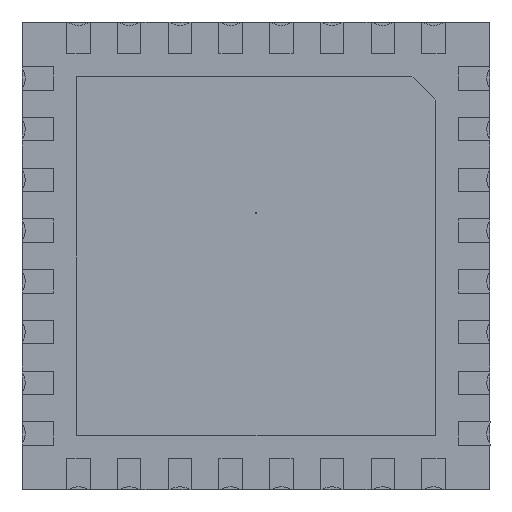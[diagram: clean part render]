
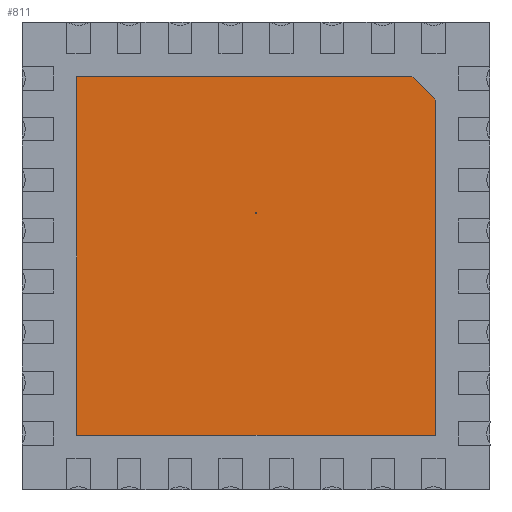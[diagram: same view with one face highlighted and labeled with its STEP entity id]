
A CAD part, front view. The second image highlights one B-rep face of the part: STEP entity #811.
In plain terms, the highlighted planar face has unit normal (0, -1, 0).
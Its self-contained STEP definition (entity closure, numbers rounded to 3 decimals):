
#347 = CARTESIAN_POINT ( 'NONE',  ( 0.7, -0.03, -5.3 ) ) ;
#523 = ORIENTED_EDGE ( 'NONE', *, *, #4440, .T. ) ;
#566 = AXIS2_PLACEMENT_3D ( 'NONE', #5805, #1808, #2377 ) ;
#769 = VECTOR ( 'NONE', #4465, 1000. ) ;
#770 = VERTEX_POINT ( 'NONE', #2802 ) ;
#799 = DIRECTION ( 'NONE',  ( 0., 0., -1. ) ) ;
#811 = ADVANCED_FACE ( 'NONE', ( #3051, #4996 ), #2145, .F. ) ;
#967 = CARTESIAN_POINT ( 'NONE',  ( 3., -0.03, -2.445 ) ) ;
#983 = EDGE_CURVE ( 'NONE', #770, #3218, #6492, .T. ) ;
#1435 = CARTESIAN_POINT ( 'NONE',  ( 0.7, -0.03, -5.3 ) ) ;
#1473 = DIRECTION ( 'NONE',  ( 0., 0., -1. ) ) ;
#1524 = ORIENTED_EDGE ( 'NONE', *, *, #2576, .T. ) ;
#1555 = ORIENTED_EDGE ( 'NONE', *, *, #5432, .T. ) ;
#1626 = VECTOR ( 'NONE', #3228, 1000. ) ;
#1781 = DIRECTION ( 'NONE',  ( 0., 0., 1. ) ) ;
#1808 = DIRECTION ( 'NONE',  ( 0., -1., 0. ) ) ;
#1884 = LINE ( 'NONE', #4970, #1626 ) ;
#1989 = VERTEX_POINT ( 'NONE', #7252 ) ;
#2145 = PLANE ( 'NONE',  #5562 ) ;
#2153 = LINE ( 'NONE', #6157, #6634 ) ;
#2183 = VERTEX_POINT ( 'NONE', #4605 ) ;
#2346 = CARTESIAN_POINT ( 'NONE',  ( 0.7, -0.03, -0.7 ) ) ;
#2373 = LINE ( 'NONE', #347, #2890 ) ;
#2377 = DIRECTION ( 'NONE',  ( 0., 0., -1. ) ) ;
#2463 = DIRECTION ( 'NONE',  ( 0., -1., 0. ) ) ;
#2543 = CARTESIAN_POINT ( 'NONE',  ( 3., -0.03, -2.45 ) ) ;
#2576 = EDGE_CURVE ( 'NONE', #6987, #2978, #2153, .T. ) ;
#2656 = EDGE_LOOP ( 'NONE', ( #523, #4554, #3985, #1524, #1555 ) ) ;
#2688 = EDGE_CURVE ( 'NONE', #6142, #6987, #3015, .T. ) ;
#2694 = DIRECTION ( 'NONE',  ( -1., 0., 0. ) ) ;
#2698 = CARTESIAN_POINT ( 'NONE',  ( 5.3, -0.03, -1. ) ) ;
#2802 = CARTESIAN_POINT ( 'NONE',  ( 3., -0.03, -2.455 ) ) ;
#2890 = VECTOR ( 'NONE', #1473, 1000. ) ;
#2978 = VERTEX_POINT ( 'NONE', #2346 ) ;
#2991 = CARTESIAN_POINT ( 'NONE',  ( 5.3, -0.03, -5.3 ) ) ;
#3015 = LINE ( 'NONE', #4415, #769 ) ;
#3051 = FACE_OUTER_BOUND ( 'NONE', #2656, .T. ) ;
#3213 = EDGE_CURVE ( 'NONE', #1989, #6142, #1884, .T. ) ;
#3218 = VERTEX_POINT ( 'NONE', #967 ) ;
#3228 = DIRECTION ( 'NONE',  ( 0., 0., 1. ) ) ;
#3430 = AXIS2_PLACEMENT_3D ( 'NONE', #2543, #2463, #799 ) ;
#3563 = DIRECTION ( 'NONE',  ( 1., 0., 0. ) ) ;
#3867 = EDGE_CURVE ( 'NONE', #3218, #770, #4054, .T. ) ;
#3985 = ORIENTED_EDGE ( 'NONE', *, *, #2688, .T. ) ;
#4044 = VECTOR ( 'NONE', #3563, 1000. ) ;
#4054 = CIRCLE ( 'NONE', #3430, 0.005 ) ;
#4415 = CARTESIAN_POINT ( 'NONE',  ( 5., -0.03, -0.7 ) ) ;
#4440 = EDGE_CURVE ( 'NONE', #2183, #1989, #4671, .T. ) ;
#4465 = DIRECTION ( 'NONE',  ( -0.707, 0., 0.707 ) ) ;
#4554 = ORIENTED_EDGE ( 'NONE', *, *, #3213, .T. ) ;
#4605 = CARTESIAN_POINT ( 'NONE',  ( 0.7, -0.03, -5.3 ) ) ;
#4671 = LINE ( 'NONE', #2991, #4044 ) ;
#4952 = ORIENTED_EDGE ( 'NONE', *, *, #3867, .F. ) ;
#4970 = CARTESIAN_POINT ( 'NONE',  ( 5.3, -0.03, -1. ) ) ;
#4996 = FACE_BOUND ( 'NONE', #6758, .T. ) ;
#5432 = EDGE_CURVE ( 'NONE', #2978, #2183, #2373, .T. ) ;
#5562 = AXIS2_PLACEMENT_3D ( 'NONE', #1435, #6797, #1781 ) ;
#5805 = CARTESIAN_POINT ( 'NONE',  ( 3., -0.03, -2.45 ) ) ;
#6118 = CARTESIAN_POINT ( 'NONE',  ( 5., -0.03, -0.7 ) ) ;
#6142 = VERTEX_POINT ( 'NONE', #2698 ) ;
#6157 = CARTESIAN_POINT ( 'NONE',  ( 0.7, -0.03, -0.7 ) ) ;
#6492 = CIRCLE ( 'NONE', #566, 0.005 ) ;
#6634 = VECTOR ( 'NONE', #2694, 1000. ) ;
#6758 = EDGE_LOOP ( 'NONE', ( #4952, #7102 ) ) ;
#6797 = DIRECTION ( 'NONE',  ( 0., 1., 0. ) ) ;
#6987 = VERTEX_POINT ( 'NONE', #6118 ) ;
#7102 = ORIENTED_EDGE ( 'NONE', *, *, #983, .F. ) ;
#7252 = CARTESIAN_POINT ( 'NONE',  ( 5.3, -0.03, -5.3 ) ) ;
